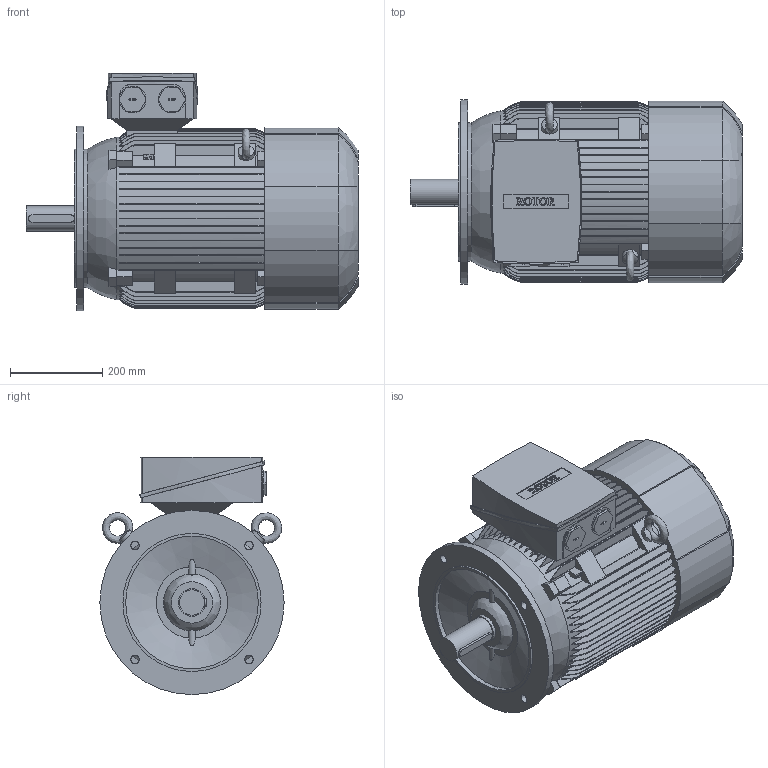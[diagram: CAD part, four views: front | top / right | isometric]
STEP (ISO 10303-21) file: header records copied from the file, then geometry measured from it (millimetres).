
FILE_DESCRIPTION (( 'STEP AP214' ), '1' );
FILE_NAME ('6RN200L06E14 IM3001.STEP', '2016-02-12T12:30:40', ( 'rotor' ), ( 'Hewlett-Packard Company' ), 'SwSTEP 2.0', 'SolidWorks 2012', '' );
FILE_SCHEMA (( 'AUTOMOTIVE_DESIGN' ));
Length unit declared in the file: millimetre
Products named in the file (1): 6RN200L06E14 IM3001
Bounding box: 721 x 400 x 515 mm (x, y, z)
Volume: 69054999 mm3; surface area: 1988954.1 mm2
Topology: 1 solids, 1 shells, 730 faces, 2057 edges, 1365 vertices
Faces by surface type: plane 405, bspline 204, cylinder 116, cone 5
Full cylindrical faces by diameter (mm): 5 x1, 18.5 x4, 35 x2, 55 x1, 58 x2, 60 x1, 288 x1, 300 x2, 400 x1
Entity records: 39232 total; most frequent: CARTESIAN_POINT 15191, ORIENTED_EDGE 4054, DIRECTION 2877, EDGE_CURVE 2027, VERTEX_POINT 1355, VECTOR 1115, LINE 1115, AXIS2_PLACEMENT_3D 881
